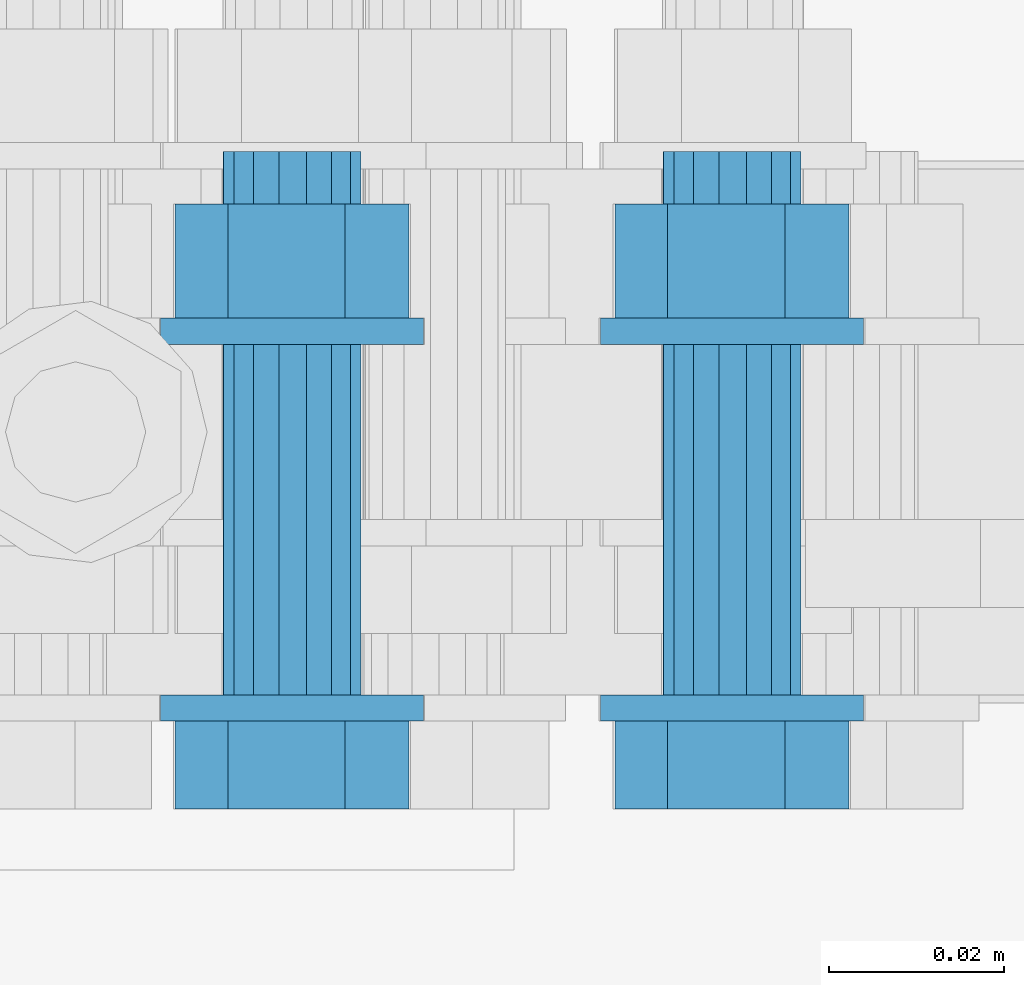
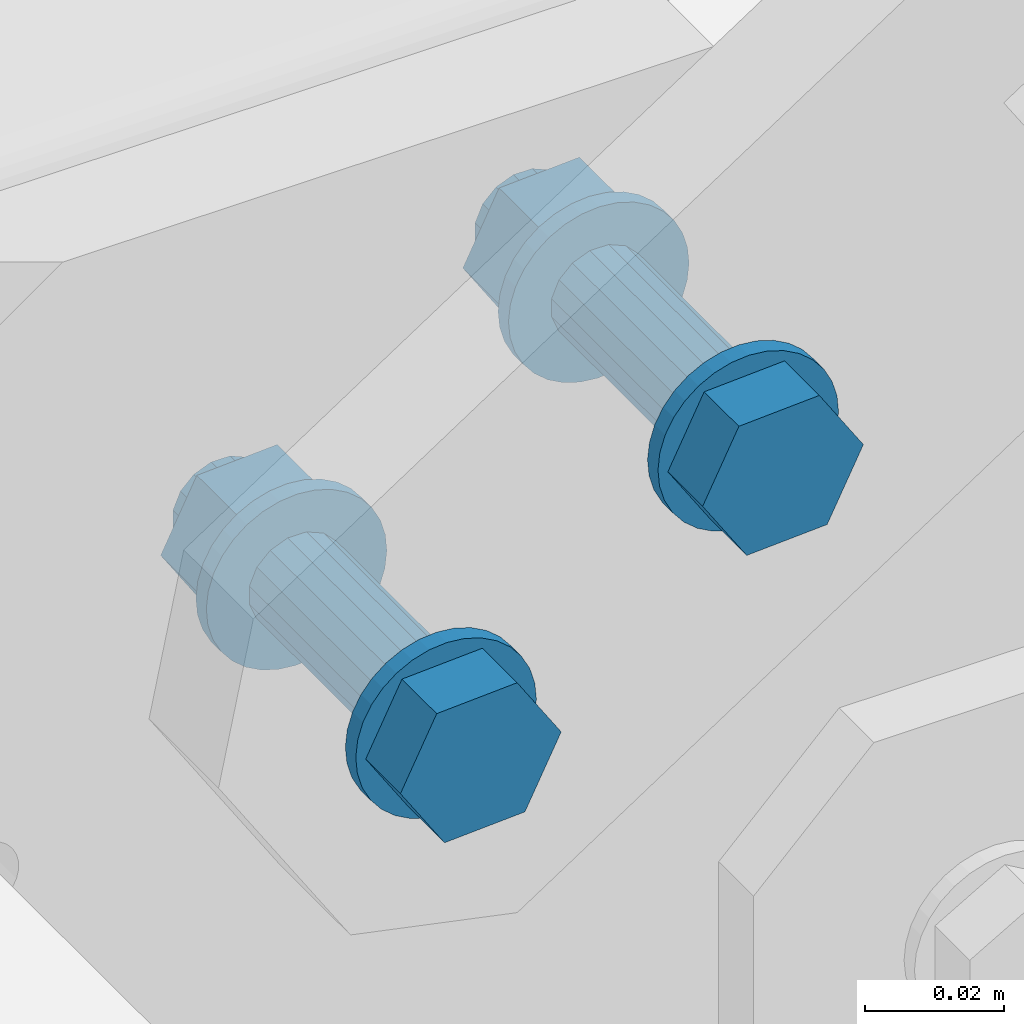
# One storey, part 251 of 825: 1 mechanical fastener.
"""IFC2X3 building model written with IfcOpenShell, lengths in millimetres."""

from ifc_helpers import new_model, entity, si_unit, converted_unit, origin_with_axes, place, context, project, spatial, faceted_brep, element, save


model = new_model("IFC2X3")

# Units and contexts
model_context = context("Model", 3, precision=1e-09, world=origin_with_axes())
ifc_project = project(units=[si_unit("LENGTHUNIT", "METRE", prefix="MILLI"), si_unit("AREAUNIT", "SQUARE_METRE"), si_unit("VOLUMEUNIT", "CUBIC_METRE"), converted_unit("PLANEANGLEUNIT", "DEGREE", entity("IfcPlaneAngleMeasure", 0.01745329), si_unit("PLANEANGLEUNIT", "RADIAN"), dimensions=[0, 0, 0, 0, 0, 0, 0])], contexts=[model_context])

# Site, building, storey
site_placement = place(None, origin_with_axes())
site = spatial("IfcSite", under=ifc_project, at=site_placement, Name="Cnopf'sche Kinderklinik", CompositionType="ELEMENT")
building_placement = place(site_placement, origin_with_axes())
building = spatial("IfcBuilding", under=site, at=building_placement, Name="Struktur 1", CompositionType="ELEMENT")
storey_placement = place(building_placement, origin_with_axes())
storey = spatial("IfcBuildingStorey", under=building, at=storey_placement, Name="Default Storey", CompositionType="ELEMENT", Elevation=0.0)

# Mechanical fastener
mechanical_fastener_placement = place(None, origin_with_axes())
element("IfcMechanicalFastener", 1, at=mechanical_fastener_placement, inside=storey, ObjectType="-", NominalDiameter=16.0, NominalLength=65.0, context=model_context, shape_type="Brep", body=[
    faceted_brep([(5059.043907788, 4333.736971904, 9749.549149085), (5059.043907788, 4336.736971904, 9749.549149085), (5060.888616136, 4336.736971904, 9747.259241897), (5060.888616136, 4333.736971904, 9747.259241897), (5063.144617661, 4336.736971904, 9745.37321938), (5063.144617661, 4333.736971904, 9745.37321938), (5065.72521549, 4336.736971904, 9743.96356032), (5065.72521549, 4333.736971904, 9743.96356032), (5068.531238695, 4336.736971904, 9743.084437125), (5068.531238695, 4333.736971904, 9743.084437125), (5071.454853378, 4336.736971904, 9742.769634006), (5071.454853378, 4333.736971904, 9742.769634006), (5074.383706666, 4336.736971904, 9743.031248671), (5074.383706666, 4333.736971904, 9743.031248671), (5077.205244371, 4336.736971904, 9743.859227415), (5077.205244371, 4333.736971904, 9743.859227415), (5079.81103638, 4336.736971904, 9745.221751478), (5079.81103638, 4333.736971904, 9745.221751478), (5082.100943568, 4336.736971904, 9747.066459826), (5082.100943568, 4333.736971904, 9747.066459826), (5083.986966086, 4336.736971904, 9749.322461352), (5083.986966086, 4333.736971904, 9749.322461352), (5085.396625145, 4336.736971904, 9751.90305918), (5085.396625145, 4333.736971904, 9751.90305918), (5086.27574834, 4336.736971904, 9754.709082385), (5086.27574834, 4333.736971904, 9754.709082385), (5086.590551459, 4336.736971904, 9757.632697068), (5086.590551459, 4333.736971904, 9757.632697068), (5086.328936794, 4336.736971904, 9760.561550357), (5086.328936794, 4333.736971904, 9760.561550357), (5085.50095805, 4336.736971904, 9763.383088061), (5085.50095805, 4333.736971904, 9763.383088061), (5084.138433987, 4336.736971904, 9765.98888007), (5084.138433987, 4333.736971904, 9765.98888007), (5082.293725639, 4336.736971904, 9768.278787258), (5082.293725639, 4333.736971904, 9768.278787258), (5080.037724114, 4336.736971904, 9770.164809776), (5080.037724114, 4333.736971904, 9770.164809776), (5077.457126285, 4336.736971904, 9771.574468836), (5077.457126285, 4333.736971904, 9771.574468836), (5074.65110308, 4336.736971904, 9772.453592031), (5074.65110308, 4333.736971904, 9772.453592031), (5071.727488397, 4336.736971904, 9772.76839515), (5071.727488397, 4333.736971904, 9772.76839515), (5068.798635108, 4336.736971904, 9772.506780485), (5068.798635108, 4333.736971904, 9772.506780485), (5065.977097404, 4336.736971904, 9771.678801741), (5065.977097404, 4333.736971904, 9771.678801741), (5063.371305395, 4336.736971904, 9770.316277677), (5063.371305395, 4333.736971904, 9770.316277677), (5061.081398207, 4336.736971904, 9768.471569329), (5061.081398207, 4333.736971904, 9768.471569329), (5059.195375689, 4336.736971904, 9766.215567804), (5059.195375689, 4333.736971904, 9766.215567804), (5057.785716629, 4336.736971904, 9763.634969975), (5057.785716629, 4333.736971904, 9763.634969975), (5056.906593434, 4336.736971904, 9760.82894677), (5056.906593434, 4333.736971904, 9760.82894677), (5056.591790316, 4336.736971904, 9757.905332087), (5056.591790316, 4333.736971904, 9757.905332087), (5056.853404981, 4336.736971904, 9754.976478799), (5056.853404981, 4333.736971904, 9754.976478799), (5057.681383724, 4336.736971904, 9752.154941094), (5057.681383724, 4333.736971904, 9752.154941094)], [[[0, 1, 2, 3]], [[3, 2, 4, 5]], [[5, 4, 6, 7]], [[7, 6, 8, 9]], [[9, 8, 10, 11]], [[11, 10, 12, 13]], [[13, 12, 14, 15]], [[15, 14, 16, 17]], [[17, 16, 18, 19]], [[19, 18, 20, 21]], [[21, 20, 22, 23]], [[23, 22, 24, 25]], [[25, 24, 26, 27]], [[27, 26, 28, 29]], [[29, 28, 30, 31]], [[31, 30, 32, 33]], [[33, 32, 34, 35]], [[35, 34, 36, 37]], [[37, 36, 38, 39]], [[39, 38, 40, 41]], [[41, 40, 42, 43]], [[43, 42, 44, 45]], [[45, 44, 46, 47]], [[47, 46, 48, 49]], [[49, 48, 50, 51]], [[51, 50, 52, 53]], [[53, 52, 54, 55]], [[55, 54, 56, 57]], [[57, 56, 58, 59]], [[59, 58, 60, 61]], [[61, 60, 62, 63]], [[63, 62, 1, 0]], [[0, 3, 5, 7, 9, 11, 13, 15, 17, 19, 21, 23, 25, 27, 29, 31, 33, 35, 37, 39, 41, 43, 45, 47, 49, 51, 53, 55, 57, 59, 61, 63]], [[1, 62, 60, 58, 56, 54, 52, 50, 48, 46, 44, 42, 40, 38, 36, 34, 32, 30, 28, 26, 24, 22, 20, 18, 16, 14, 12, 10, 8, 6, 4, 2]]]),
    faceted_brep([(5008.854855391, 4333.736971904, 9716.669687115), (5008.854855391, 4336.736971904, 9716.669687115), (5010.699563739, 4336.736971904, 9714.379779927), (5010.699563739, 4333.736971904, 9714.379779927), (5012.955565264, 4336.736971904, 9712.493757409), (5012.955565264, 4333.736971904, 9712.493757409), (5015.536163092, 4336.736971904, 9711.08409835), (5015.536163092, 4333.736971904, 9711.08409835), (5018.342186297, 4336.736971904, 9710.204975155), (5018.342186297, 4333.736971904, 9710.204975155), (5021.26580098, 4336.736971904, 9709.890172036), (5021.26580098, 4333.736971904, 9709.890172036), (5024.194654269, 4336.736971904, 9710.151786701), (5024.194654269, 4333.736971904, 9710.151786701), (5027.016191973, 4336.736971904, 9710.979765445), (5027.016191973, 4333.736971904, 9710.979765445), (5029.621983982, 4336.736971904, 9712.342289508), (5029.621983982, 4333.736971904, 9712.342289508), (5031.91189117, 4336.736971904, 9714.186997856), (5031.91189117, 4333.736971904, 9714.186997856), (5033.797913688, 4336.736971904, 9716.442999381), (5033.797913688, 4333.736971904, 9716.442999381), (5035.207572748, 4336.736971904, 9719.02359721), (5035.207572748, 4333.736971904, 9719.02359721), (5036.086695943, 4336.736971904, 9721.829620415), (5036.086695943, 4333.736971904, 9721.829620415), (5036.401499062, 4336.736971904, 9724.753235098), (5036.401499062, 4333.736971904, 9724.753235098), (5036.139884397, 4336.736971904, 9727.682088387), (5036.139884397, 4333.736971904, 9727.682088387), (5035.311905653, 4336.736971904, 9730.503626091), (5035.311905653, 4333.736971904, 9730.503626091), (5033.949381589, 4336.736971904, 9733.1094181), (5033.949381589, 4333.736971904, 9733.1094181), (5032.104673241, 4336.736971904, 9735.399325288), (5032.104673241, 4333.736971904, 9735.399325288), (5029.848671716, 4336.736971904, 9737.285347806), (5029.848671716, 4333.736971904, 9737.285347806), (5027.268073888, 4336.736971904, 9738.695006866), (5027.268073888, 4333.736971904, 9738.695006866), (5024.462050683, 4336.736971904, 9739.574130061), (5024.462050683, 4333.736971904, 9739.574130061), (5021.538436, 4336.736971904, 9739.888933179), (5021.538436, 4333.736971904, 9739.888933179), (5018.609582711, 4336.736971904, 9739.627318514), (5018.609582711, 4333.736971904, 9739.627318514), (5015.788045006, 4336.736971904, 9738.799339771), (5015.788045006, 4333.736971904, 9738.799339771), (5013.182252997, 4336.736971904, 9737.436815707), (5013.182252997, 4333.736971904, 9737.436815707), (5010.892345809, 4336.736971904, 9735.592107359), (5010.892345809, 4333.736971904, 9735.592107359), (5009.006323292, 4336.736971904, 9733.336105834), (5009.006323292, 4333.736971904, 9733.336105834), (5007.596664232, 4336.736971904, 9730.755508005), (5007.596664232, 4333.736971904, 9730.755508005), (5006.717541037, 4336.736971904, 9727.9494848), (5006.717541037, 4333.736971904, 9727.9494848), (5006.402737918, 4336.736971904, 9725.025870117), (5006.402737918, 4333.736971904, 9725.025870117), (5006.664352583, 4336.736971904, 9722.097016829), (5006.664352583, 4333.736971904, 9722.097016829), (5007.492331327, 4336.736971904, 9719.275479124), (5007.492331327, 4333.736971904, 9719.275479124)], [[[0, 1, 2, 3]], [[3, 2, 4, 5]], [[5, 4, 6, 7]], [[7, 6, 8, 9]], [[9, 8, 10, 11]], [[11, 10, 12, 13]], [[13, 12, 14, 15]], [[15, 14, 16, 17]], [[17, 16, 18, 19]], [[19, 18, 20, 21]], [[21, 20, 22, 23]], [[23, 22, 24, 25]], [[25, 24, 26, 27]], [[27, 26, 28, 29]], [[29, 28, 30, 31]], [[31, 30, 32, 33]], [[33, 32, 34, 35]], [[35, 34, 36, 37]], [[37, 36, 38, 39]], [[39, 38, 40, 41]], [[41, 40, 42, 43]], [[43, 42, 44, 45]], [[45, 44, 46, 47]], [[47, 46, 48, 49]], [[49, 48, 50, 51]], [[51, 50, 52, 53]], [[53, 52, 54, 55]], [[55, 54, 56, 57]], [[57, 56, 58, 59]], [[59, 58, 60, 61]], [[61, 60, 62, 63]], [[63, 62, 1, 0]], [[0, 3, 5, 7, 9, 11, 13, 15, 17, 19, 21, 23, 25, 27, 29, 31, 33, 35, 37, 39, 41, 43, 45, 47, 49, 51, 53, 55, 57, 59, 61, 63]], [[1, 62, 60, 58, 56, 54, 52, 50, 48, 46, 44, 42, 40, 38, 36, 34, 32, 30, 28, 26, 24, 22, 20, 18, 16, 14, 12, 10, 8, 6, 4, 2]]]),
    faceted_brep([(5084.944932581, 4333.736971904, 9758.522455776), (5084.944932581, 4323.736971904, 9758.522455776), (5078.920550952, 4323.736971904, 9746.581038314), (5078.920550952, 4333.736971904, 9746.581038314), (5065.566789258, 4323.736971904, 9745.827597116), (5065.566789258, 4333.736971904, 9745.827597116), (5058.237409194, 4323.736971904, 9757.01557338), (5058.237409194, 4333.736971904, 9757.01557338), (5064.261790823, 4323.736971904, 9768.956990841), (5064.261790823, 4333.736971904, 9768.956990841), (5077.615552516, 4323.736971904, 9769.710432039), (5077.615552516, 4333.736971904, 9769.710432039)], [[[0, 1, 2, 3]], [[3, 2, 4, 5]], [[5, 4, 6, 7]], [[7, 6, 8, 9]], [[9, 8, 10, 11]], [[11, 10, 1, 0]], [[4, 2, 1, 10, 8, 6]], [[0, 3, 5, 7, 9, 11]]]),
    faceted_brep([(5034.755880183, 4333.736971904, 9725.642993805), (5034.755880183, 4323.736971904, 9725.642993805), (5028.731498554, 4323.736971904, 9713.701576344), (5028.731498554, 4333.736971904, 9713.701576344), (5015.377736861, 4323.736971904, 9712.948135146), (5015.377736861, 4333.736971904, 9712.948135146), (5008.048356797, 4323.736971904, 9724.13611141), (5008.048356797, 4333.736971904, 9724.13611141), (5014.072738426, 4323.736971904, 9736.077528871), (5014.072738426, 4333.736971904, 9736.077528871), (5027.426500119, 4323.736971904, 9736.830970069), (5027.426500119, 4333.736971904, 9736.830970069)], [[[0, 1, 2, 3]], [[3, 2, 4, 5]], [[5, 4, 6, 7]], [[7, 6, 8, 9]], [[9, 8, 10, 11]], [[11, 10, 1, 0]], [[4, 2, 1, 10, 8, 6]], [[0, 3, 5, 7, 9, 11]]]),
    faceted_brep([(5064.899297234, 4336.736971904, 9753.385086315), (5064.899297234, 4376.736971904, 9753.385086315), (5067.0863425, 4376.736971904, 9751.157923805), (5067.0863425, 4336.736971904, 9751.157923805), (5069.959207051, 4376.736971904, 9749.937239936), (5069.959207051, 4336.736971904, 9749.937239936), (5073.080523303, 4376.736971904, 9749.908872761), (5073.080523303, 4336.736971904, 9749.908872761), (5075.97509915, 4376.736971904, 9751.077140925), (5075.97509915, 4336.736971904, 9751.077140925), (5078.20226166, 4376.736971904, 9753.26418619), (5078.20226166, 4336.736971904, 9753.26418619), (5079.422945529, 4376.736971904, 9756.137050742), (5079.422945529, 4336.736971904, 9756.137050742), (5079.451312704, 4376.736971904, 9759.258366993), (5079.451312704, 4336.736971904, 9759.258366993), (5078.28304454, 4376.736971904, 9762.152942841), (5078.28304454, 4336.736971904, 9762.152942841), (5076.095999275, 4376.736971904, 9764.38010535), (5076.095999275, 4336.736971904, 9764.38010535), (5073.223134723, 4376.736971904, 9765.600789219), (5073.223134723, 4336.736971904, 9765.600789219), (5070.101818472, 4376.736971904, 9765.629156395), (5070.101818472, 4336.736971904, 9765.629156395), (5067.207242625, 4376.736971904, 9764.460888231), (5067.207242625, 4336.736971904, 9764.460888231), (5064.980080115, 4376.736971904, 9762.273842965), (5064.980080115, 4336.736971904, 9762.273842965), (5063.759396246, 4376.736971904, 9759.400978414), (5063.759396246, 4336.736971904, 9759.400978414), (5063.73102907, 4376.736971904, 9756.279662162), (5063.73102907, 4336.736971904, 9756.279662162)], [[[0, 1, 2, 3]], [[3, 2, 4, 5]], [[5, 4, 6, 7]], [[7, 6, 8, 9]], [[9, 8, 10, 11]], [[11, 10, 12, 13]], [[13, 12, 14, 15]], [[15, 14, 16, 17]], [[17, 16, 18, 19]], [[19, 18, 20, 21]], [[21, 20, 22, 23]], [[23, 22, 24, 25]], [[25, 24, 26, 27]], [[27, 26, 28, 29]], [[29, 28, 30, 31]], [[31, 30, 1, 0]], [[0, 3, 5, 7, 9, 11, 13, 15, 17, 19, 21, 23, 25, 27, 29, 31]], [[1, 30, 28, 26, 24, 22, 20, 18, 16, 14, 12, 10, 8, 6, 4, 2]]]),
    faceted_brep([(5014.710244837, 4336.736971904, 9720.505624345), (5014.710244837, 4376.736971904, 9720.505624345), (5016.897290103, 4376.736971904, 9718.278461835), (5016.897290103, 4336.736971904, 9718.278461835), (5019.770154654, 4376.736971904, 9717.057777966), (5019.770154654, 4336.736971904, 9717.057777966), (5022.891470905, 4376.736971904, 9717.029410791), (5022.891470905, 4336.736971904, 9717.029410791), (5025.786046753, 4376.736971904, 9718.197678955), (5025.786046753, 4336.736971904, 9718.197678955), (5028.013209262, 4376.736971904, 9720.38472422), (5028.013209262, 4336.736971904, 9720.38472422), (5029.233893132, 4376.736971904, 9723.257588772), (5029.233893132, 4336.736971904, 9723.257588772), (5029.262260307, 4376.736971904, 9726.378905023), (5029.262260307, 4336.736971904, 9726.378905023), (5028.093992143, 4376.736971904, 9729.27348087), (5028.093992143, 4336.736971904, 9729.27348087), (5025.906946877, 4376.736971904, 9731.50064338), (5025.906946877, 4336.736971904, 9731.50064338), (5023.034082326, 4376.736971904, 9732.721327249), (5023.034082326, 4336.736971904, 9732.721327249), (5019.912766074, 4376.736971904, 9732.749694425), (5019.912766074, 4336.736971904, 9732.749694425), (5017.018190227, 4376.736971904, 9731.581426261), (5017.018190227, 4336.736971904, 9731.581426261), (5014.791027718, 4376.736971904, 9729.394380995), (5014.791027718, 4336.736971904, 9729.394380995), (5013.570343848, 4376.736971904, 9726.521516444), (5013.570343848, 4336.736971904, 9726.521516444), (5013.541976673, 4376.736971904, 9723.400200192), (5013.541976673, 4336.736971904, 9723.400200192)], [[[0, 1, 2, 3]], [[3, 2, 4, 5]], [[5, 4, 6, 7]], [[7, 6, 8, 9]], [[9, 8, 10, 11]], [[11, 10, 12, 13]], [[13, 12, 14, 15]], [[15, 14, 16, 17]], [[17, 16, 18, 19]], [[19, 18, 20, 21]], [[21, 20, 22, 23]], [[23, 22, 24, 25]], [[25, 24, 26, 27]], [[27, 26, 28, 29]], [[29, 28, 30, 31]], [[31, 30, 1, 0]], [[0, 3, 5, 7, 9, 11, 13, 15, 17, 19, 21, 23, 25, 27, 29, 31]], [[1, 30, 28, 26, 24, 22, 20, 18, 16, 14, 12, 10, 8, 6, 4, 2]]]),
    faceted_brep([(5059.043907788, 4376.736971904, 9749.549149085), (5059.043907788, 4379.736971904, 9749.549149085), (5060.888616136, 4379.736971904, 9747.259241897), (5060.888616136, 4376.736971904, 9747.259241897), (5063.144617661, 4379.736971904, 9745.37321938), (5063.144617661, 4376.736971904, 9745.37321938), (5065.72521549, 4379.736971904, 9743.96356032), (5065.72521549, 4376.736971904, 9743.96356032), (5068.531238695, 4379.736971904, 9743.084437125), (5068.531238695, 4376.736971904, 9743.084437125), (5071.454853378, 4379.736971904, 9742.769634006), (5071.454853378, 4376.736971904, 9742.769634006), (5074.383706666, 4379.736971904, 9743.031248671), (5074.383706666, 4376.736971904, 9743.031248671), (5077.205244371, 4379.736971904, 9743.859227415), (5077.205244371, 4376.736971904, 9743.859227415), (5079.81103638, 4379.736971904, 9745.221751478), (5079.81103638, 4376.736971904, 9745.221751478), (5082.100943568, 4379.736971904, 9747.066459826), (5082.100943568, 4376.736971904, 9747.066459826), (5083.986966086, 4379.736971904, 9749.322461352), (5083.986966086, 4376.736971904, 9749.322461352), (5085.396625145, 4379.736971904, 9751.90305918), (5085.396625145, 4376.736971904, 9751.90305918), (5086.27574834, 4379.736971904, 9754.709082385), (5086.27574834, 4376.736971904, 9754.709082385), (5086.590551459, 4379.736971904, 9757.632697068), (5086.590551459, 4376.736971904, 9757.632697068), (5086.328936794, 4379.736971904, 9760.561550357), (5086.328936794, 4376.736971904, 9760.561550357), (5085.50095805, 4379.736971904, 9763.383088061), (5085.50095805, 4376.736971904, 9763.383088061), (5084.138433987, 4379.736971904, 9765.98888007), (5084.138433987, 4376.736971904, 9765.98888007), (5082.293725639, 4379.736971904, 9768.278787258), (5082.293725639, 4376.736971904, 9768.278787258), (5080.037724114, 4379.736971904, 9770.164809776), (5080.037724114, 4376.736971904, 9770.164809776), (5077.457126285, 4379.736971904, 9771.574468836), (5077.457126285, 4376.736971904, 9771.574468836), (5074.65110308, 4379.736971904, 9772.453592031), (5074.65110308, 4376.736971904, 9772.453592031), (5071.727488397, 4379.736971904, 9772.76839515), (5071.727488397, 4376.736971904, 9772.76839515), (5068.798635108, 4379.736971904, 9772.506780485), (5068.798635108, 4376.736971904, 9772.506780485), (5065.977097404, 4379.736971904, 9771.678801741), (5065.977097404, 4376.736971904, 9771.678801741), (5063.371305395, 4379.736971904, 9770.316277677), (5063.371305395, 4376.736971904, 9770.316277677), (5061.081398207, 4379.736971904, 9768.471569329), (5061.081398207, 4376.736971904, 9768.471569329), (5059.195375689, 4379.736971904, 9766.215567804), (5059.195375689, 4376.736971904, 9766.215567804), (5057.785716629, 4379.736971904, 9763.634969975), (5057.785716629, 4376.736971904, 9763.634969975), (5056.906593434, 4379.736971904, 9760.82894677), (5056.906593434, 4376.736971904, 9760.82894677), (5056.591790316, 4379.736971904, 9757.905332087), (5056.591790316, 4376.736971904, 9757.905332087), (5056.853404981, 4379.736971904, 9754.976478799), (5056.853404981, 4376.736971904, 9754.976478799), (5057.681383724, 4379.736971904, 9752.154941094), (5057.681383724, 4376.736971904, 9752.154941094)], [[[0, 1, 2, 3]], [[3, 2, 4, 5]], [[5, 4, 6, 7]], [[7, 6, 8, 9]], [[9, 8, 10, 11]], [[11, 10, 12, 13]], [[13, 12, 14, 15]], [[15, 14, 16, 17]], [[17, 16, 18, 19]], [[19, 18, 20, 21]], [[21, 20, 22, 23]], [[23, 22, 24, 25]], [[25, 24, 26, 27]], [[27, 26, 28, 29]], [[29, 28, 30, 31]], [[31, 30, 32, 33]], [[33, 32, 34, 35]], [[35, 34, 36, 37]], [[37, 36, 38, 39]], [[39, 38, 40, 41]], [[41, 40, 42, 43]], [[43, 42, 44, 45]], [[45, 44, 46, 47]], [[47, 46, 48, 49]], [[49, 48, 50, 51]], [[51, 50, 52, 53]], [[53, 52, 54, 55]], [[55, 54, 56, 57]], [[57, 56, 58, 59]], [[59, 58, 60, 61]], [[61, 60, 62, 63]], [[63, 62, 1, 0]], [[0, 3, 5, 7, 9, 11, 13, 15, 17, 19, 21, 23, 25, 27, 29, 31, 33, 35, 37, 39, 41, 43, 45, 47, 49, 51, 53, 55, 57, 59, 61, 63]], [[1, 62, 60, 58, 56, 54, 52, 50, 48, 46, 44, 42, 40, 38, 36, 34, 32, 30, 28, 26, 24, 22, 20, 18, 16, 14, 12, 10, 8, 6, 4, 2]]]),
    faceted_brep([(5008.854855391, 4376.736971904, 9716.669687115), (5008.854855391, 4379.736971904, 9716.669687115), (5010.699563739, 4379.736971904, 9714.379779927), (5010.699563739, 4376.736971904, 9714.379779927), (5012.955565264, 4379.736971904, 9712.493757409), (5012.955565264, 4376.736971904, 9712.493757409), (5015.536163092, 4379.736971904, 9711.08409835), (5015.536163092, 4376.736971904, 9711.08409835), (5018.342186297, 4379.736971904, 9710.204975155), (5018.342186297, 4376.736971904, 9710.204975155), (5021.26580098, 4379.736971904, 9709.890172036), (5021.26580098, 4376.736971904, 9709.890172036), (5024.194654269, 4379.736971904, 9710.151786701), (5024.194654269, 4376.736971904, 9710.151786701), (5027.016191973, 4379.736971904, 9710.979765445), (5027.016191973, 4376.736971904, 9710.979765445), (5029.621983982, 4379.736971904, 9712.342289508), (5029.621983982, 4376.736971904, 9712.342289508), (5031.91189117, 4379.736971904, 9714.186997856), (5031.91189117, 4376.736971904, 9714.186997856), (5033.797913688, 4379.736971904, 9716.442999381), (5033.797913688, 4376.736971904, 9716.442999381), (5035.207572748, 4379.736971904, 9719.02359721), (5035.207572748, 4376.736971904, 9719.02359721), (5036.086695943, 4379.736971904, 9721.829620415), (5036.086695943, 4376.736971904, 9721.829620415), (5036.401499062, 4379.736971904, 9724.753235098), (5036.401499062, 4376.736971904, 9724.753235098), (5036.139884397, 4379.736971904, 9727.682088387), (5036.139884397, 4376.736971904, 9727.682088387), (5035.311905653, 4379.736971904, 9730.503626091), (5035.311905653, 4376.736971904, 9730.503626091), (5033.949381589, 4379.736971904, 9733.1094181), (5033.949381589, 4376.736971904, 9733.1094181), (5032.104673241, 4379.736971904, 9735.399325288), (5032.104673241, 4376.736971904, 9735.399325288), (5029.848671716, 4379.736971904, 9737.285347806), (5029.848671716, 4376.736971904, 9737.285347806), (5027.268073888, 4379.736971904, 9738.695006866), (5027.268073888, 4376.736971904, 9738.695006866), (5024.462050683, 4379.736971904, 9739.574130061), (5024.462050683, 4376.736971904, 9739.574130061), (5021.538436, 4379.736971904, 9739.888933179), (5021.538436, 4376.736971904, 9739.888933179), (5018.609582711, 4379.736971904, 9739.627318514), (5018.609582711, 4376.736971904, 9739.627318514), (5015.788045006, 4379.736971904, 9738.799339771), (5015.788045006, 4376.736971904, 9738.799339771), (5013.182252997, 4379.736971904, 9737.436815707), (5013.182252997, 4376.736971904, 9737.436815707), (5010.892345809, 4379.736971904, 9735.592107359), (5010.892345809, 4376.736971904, 9735.592107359), (5009.006323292, 4379.736971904, 9733.336105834), (5009.006323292, 4376.736971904, 9733.336105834), (5007.596664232, 4379.736971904, 9730.755508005), (5007.596664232, 4376.736971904, 9730.755508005), (5006.717541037, 4379.736971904, 9727.9494848), (5006.717541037, 4376.736971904, 9727.9494848), (5006.402737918, 4379.736971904, 9725.025870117), (5006.402737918, 4376.736971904, 9725.025870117), (5006.664352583, 4379.736971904, 9722.097016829), (5006.664352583, 4376.736971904, 9722.097016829), (5007.492331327, 4379.736971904, 9719.275479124), (5007.492331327, 4376.736971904, 9719.275479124)], [[[0, 1, 2, 3]], [[3, 2, 4, 5]], [[5, 4, 6, 7]], [[7, 6, 8, 9]], [[9, 8, 10, 11]], [[11, 10, 12, 13]], [[13, 12, 14, 15]], [[15, 14, 16, 17]], [[17, 16, 18, 19]], [[19, 18, 20, 21]], [[21, 20, 22, 23]], [[23, 22, 24, 25]], [[25, 24, 26, 27]], [[27, 26, 28, 29]], [[29, 28, 30, 31]], [[31, 30, 32, 33]], [[33, 32, 34, 35]], [[35, 34, 36, 37]], [[37, 36, 38, 39]], [[39, 38, 40, 41]], [[41, 40, 42, 43]], [[43, 42, 44, 45]], [[45, 44, 46, 47]], [[47, 46, 48, 49]], [[49, 48, 50, 51]], [[51, 50, 52, 53]], [[53, 52, 54, 55]], [[55, 54, 56, 57]], [[57, 56, 58, 59]], [[59, 58, 60, 61]], [[61, 60, 62, 63]], [[63, 62, 1, 0]], [[0, 3, 5, 7, 9, 11, 13, 15, 17, 19, 21, 23, 25, 27, 29, 31, 33, 35, 37, 39, 41, 43, 45, 47, 49, 51, 53, 55, 57, 59, 61, 63]], [[1, 62, 60, 58, 56, 54, 52, 50, 48, 46, 44, 42, 40, 38, 36, 34, 32, 30, 28, 26, 24, 22, 20, 18, 16, 14, 12, 10, 8, 6, 4, 2]]]),
    faceted_brep([(5084.944932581, 4392.736971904, 9758.522455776), (5084.944932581, 4379.736971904, 9758.522455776), (5078.920550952, 4379.736971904, 9746.581038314), (5078.920550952, 4392.736971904, 9746.581038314), (5065.566789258, 4379.736971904, 9745.827597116), (5065.566789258, 4392.736971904, 9745.827597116), (5058.237409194, 4379.736971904, 9757.01557338), (5058.237409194, 4392.736971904, 9757.01557338), (5064.261790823, 4379.736971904, 9768.956990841), (5064.261790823, 4392.736971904, 9768.956990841), (5077.615552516, 4379.736971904, 9769.710432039), (5077.615552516, 4392.736971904, 9769.710432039)], [[[0, 1, 2, 3]], [[3, 2, 4, 5]], [[5, 4, 6, 7]], [[7, 6, 8, 9]], [[9, 8, 10, 11]], [[11, 10, 1, 0]], [[4, 2, 1, 10, 8, 6]], [[0, 3, 5, 7, 9, 11]]]),
    faceted_brep([(5034.755880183, 4392.736971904, 9725.642993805), (5034.755880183, 4379.736971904, 9725.642993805), (5028.731498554, 4379.736971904, 9713.701576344), (5028.731498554, 4392.736971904, 9713.701576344), (5015.377736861, 4379.736971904, 9712.948135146), (5015.377736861, 4392.736971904, 9712.948135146), (5008.048356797, 4379.736971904, 9724.13611141), (5008.048356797, 4392.736971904, 9724.13611141), (5014.072738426, 4379.736971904, 9736.077528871), (5014.072738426, 4392.736971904, 9736.077528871), (5027.426500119, 4379.736971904, 9736.830970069), (5027.426500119, 4392.736971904, 9736.830970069)], [[[0, 1, 2, 3]], [[3, 2, 4, 5]], [[5, 4, 6, 7]], [[7, 6, 8, 9]], [[9, 8, 10, 11]], [[11, 10, 1, 0]], [[4, 2, 1, 10, 8, 6]], [[0, 3, 5, 7, 9, 11]]]),
    faceted_brep([(5064.899297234, 4392.736971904, 9753.385086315), (5064.899297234, 4398.736971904, 9753.385086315), (5067.0863425, 4398.736971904, 9751.157923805), (5067.0863425, 4392.736971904, 9751.157923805), (5069.959207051, 4398.736971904, 9749.937239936), (5069.959207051, 4392.736971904, 9749.937239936), (5073.080523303, 4398.736971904, 9749.908872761), (5073.080523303, 4392.736971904, 9749.908872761), (5075.97509915, 4398.736971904, 9751.077140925), (5075.97509915, 4392.736971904, 9751.077140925), (5078.20226166, 4398.736971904, 9753.26418619), (5078.20226166, 4392.736971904, 9753.26418619), (5079.422945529, 4398.736971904, 9756.137050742), (5079.422945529, 4392.736971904, 9756.137050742), (5079.451312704, 4398.736971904, 9759.258366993), (5079.451312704, 4392.736971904, 9759.258366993), (5078.28304454, 4398.736971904, 9762.152942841), (5078.28304454, 4392.736971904, 9762.152942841), (5076.095999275, 4398.736971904, 9764.38010535), (5076.095999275, 4392.736971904, 9764.38010535), (5073.223134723, 4398.736971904, 9765.600789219), (5073.223134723, 4392.736971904, 9765.600789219), (5070.101818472, 4398.736971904, 9765.629156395), (5070.101818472, 4392.736971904, 9765.629156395), (5067.207242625, 4398.736971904, 9764.460888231), (5067.207242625, 4392.736971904, 9764.460888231), (5064.980080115, 4398.736971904, 9762.273842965), (5064.980080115, 4392.736971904, 9762.273842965), (5063.759396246, 4398.736971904, 9759.400978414), (5063.759396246, 4392.736971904, 9759.400978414), (5063.73102907, 4398.736971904, 9756.279662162), (5063.73102907, 4392.736971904, 9756.279662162)], [[[0, 1, 2, 3]], [[3, 2, 4, 5]], [[5, 4, 6, 7]], [[7, 6, 8, 9]], [[9, 8, 10, 11]], [[11, 10, 12, 13]], [[13, 12, 14, 15]], [[15, 14, 16, 17]], [[17, 16, 18, 19]], [[19, 18, 20, 21]], [[21, 20, 22, 23]], [[23, 22, 24, 25]], [[25, 24, 26, 27]], [[27, 26, 28, 29]], [[29, 28, 30, 31]], [[31, 30, 1, 0]], [[0, 3, 5, 7, 9, 11, 13, 15, 17, 19, 21, 23, 25, 27, 29, 31]], [[1, 30, 28, 26, 24, 22, 20, 18, 16, 14, 12, 10, 8, 6, 4, 2]]]),
    faceted_brep([(5014.710244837, 4392.736971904, 9720.505624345), (5014.710244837, 4398.736971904, 9720.505624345), (5016.897290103, 4398.736971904, 9718.278461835), (5016.897290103, 4392.736971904, 9718.278461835), (5019.770154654, 4398.736971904, 9717.057777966), (5019.770154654, 4392.736971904, 9717.057777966), (5022.891470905, 4398.736971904, 9717.029410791), (5022.891470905, 4392.736971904, 9717.029410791), (5025.786046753, 4398.736971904, 9718.197678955), (5025.786046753, 4392.736971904, 9718.197678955), (5028.013209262, 4398.736971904, 9720.38472422), (5028.013209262, 4392.736971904, 9720.38472422), (5029.233893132, 4398.736971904, 9723.257588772), (5029.233893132, 4392.736971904, 9723.257588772), (5029.262260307, 4398.736971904, 9726.378905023), (5029.262260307, 4392.736971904, 9726.378905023), (5028.093992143, 4398.736971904, 9729.27348087), (5028.093992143, 4392.736971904, 9729.27348087), (5025.906946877, 4398.736971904, 9731.50064338), (5025.906946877, 4392.736971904, 9731.50064338), (5023.034082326, 4398.736971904, 9732.721327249), (5023.034082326, 4392.736971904, 9732.721327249), (5019.912766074, 4398.736971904, 9732.749694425), (5019.912766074, 4392.736971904, 9732.749694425), (5017.018190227, 4398.736971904, 9731.581426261), (5017.018190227, 4392.736971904, 9731.581426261), (5014.791027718, 4398.736971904, 9729.394380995), (5014.791027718, 4392.736971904, 9729.394380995), (5013.570343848, 4398.736971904, 9726.521516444), (5013.570343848, 4392.736971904, 9726.521516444), (5013.541976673, 4398.736971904, 9723.400200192), (5013.541976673, 4392.736971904, 9723.400200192)], [[[0, 1, 2, 3]], [[3, 2, 4, 5]], [[5, 4, 6, 7]], [[7, 6, 8, 9]], [[9, 8, 10, 11]], [[11, 10, 12, 13]], [[13, 12, 14, 15]], [[15, 14, 16, 17]], [[17, 16, 18, 19]], [[19, 18, 20, 21]], [[21, 20, 22, 23]], [[23, 22, 24, 25]], [[25, 24, 26, 27]], [[27, 26, 28, 29]], [[29, 28, 30, 31]], [[31, 30, 1, 0]], [[0, 3, 5, 7, 9, 11, 13, 15, 17, 19, 21, 23, 25, 27, 29, 31]], [[1, 30, 28, 26, 24, 22, 20, 18, 16, 14, 12, 10, 8, 6, 4, 2]]]),
])

save(model, "model.ifc")
